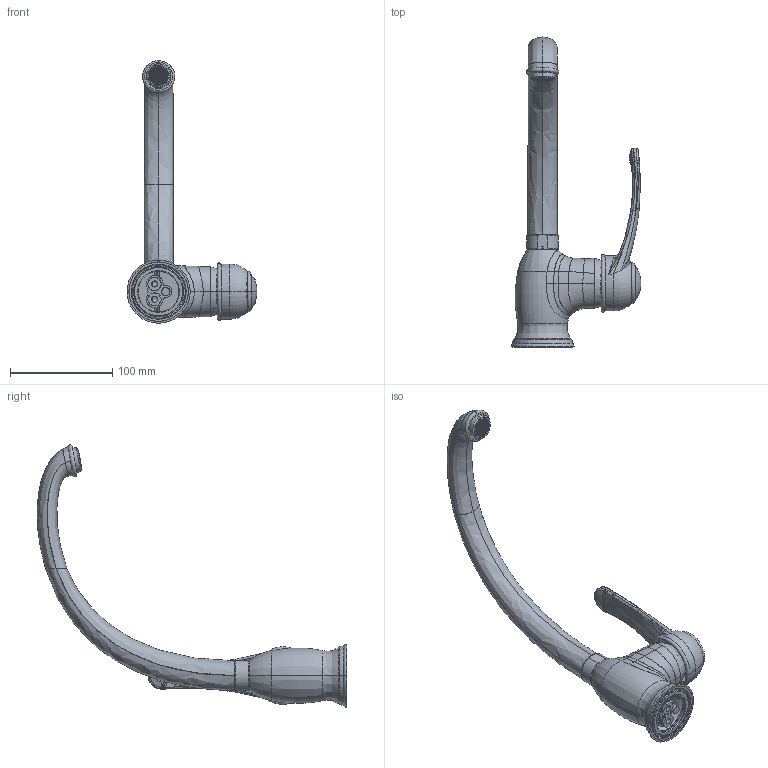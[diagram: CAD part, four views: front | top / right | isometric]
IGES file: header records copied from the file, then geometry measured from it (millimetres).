
Start section:  PTC IGES file: 29165.igs
Global section: file name: 29165.igs; native system: Creo Parametric by PTC Inc.; preprocessor: 2022014; author: carloff; organization: Unknown; date: 20260515.153312; units: millimetre
Bounding box: 127.01 x 302.84 x 256.66 mm (x, y, z)
Surface area: 181474.6 mm2 (no closed solid volume)
Topology: 0 solids, 0 shells, 4791 faces, 29870 edges, 29854 vertices
Faces by surface type: bspline 3274, revolution 1517
